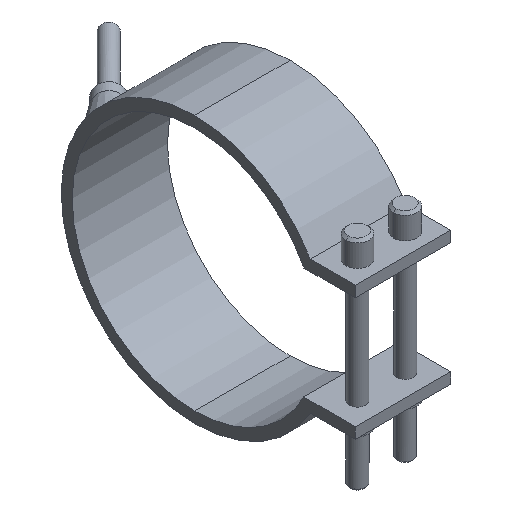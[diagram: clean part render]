
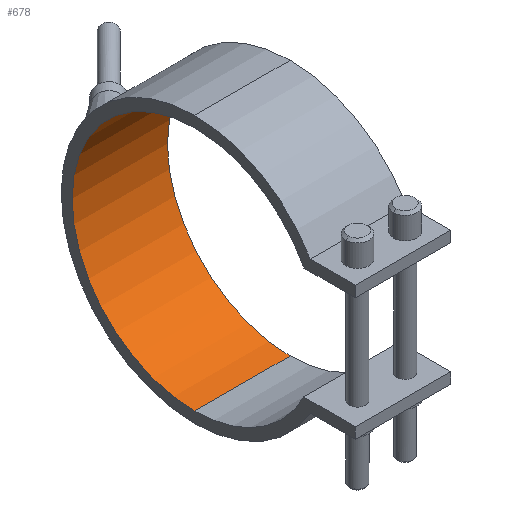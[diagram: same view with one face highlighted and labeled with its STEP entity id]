
A CAD part, isometric view. The second image highlights one B-rep face of the part: STEP entity #678.
In plain terms, the highlighted cylindrical face has radius 45 mm (diameter 90 mm), a partial arc.
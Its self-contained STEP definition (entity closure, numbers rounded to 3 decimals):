
#348=CARTESIAN_POINT('Vertex',(17.5,0.,45.)) ;
#353=CARTESIAN_POINT('Axis2P3D Location',(17.5,0.,0.)) ;
#357=CARTESIAN_POINT('Vertex',(17.5,0.,-45.)) ;
#464=CARTESIAN_POINT('Vertex',(-17.5,0.,-45.)) ;
#467=CARTESIAN_POINT('Axis2P3D Location',(-17.5,0.,0.)) ;
#471=CARTESIAN_POINT('Vertex',(-17.5,0.,45.)) ;
#650=CARTESIAN_POINT('Line Origine',(17.5,0.,45.)) ;
#662=CARTESIAN_POINT('Axis2P3D Location',(17.5,0.,0.)) ;
#667=CARTESIAN_POINT('Line Origine',(17.5,0.,-45.)) ;
#354=DIRECTION('Axis2P3D Direction',(1.,0.,0.)) ;
#468=DIRECTION('Axis2P3D Direction',(1.,0.,0.)) ;
#651=DIRECTION('Vector Direction',(1.,0.,0.)) ;
#663=DIRECTION('Axis2P3D Direction',(1.,0.,-0.)) ;
#664=DIRECTION('Axis2P3D XDirection',(0.,0.,-1.)) ;
#668=DIRECTION('Vector Direction',(1.,0.,0.)) ;
#355=AXIS2_PLACEMENT_3D('Circle Axis2P3D',#353,#354,$) ;
#469=AXIS2_PLACEMENT_3D('Circle Axis2P3D',#467,#468,$) ;
#665=AXIS2_PLACEMENT_3D('Cylinder Axis2P3D',#662,#663,#664) ;
#673=ORIENTED_EDGE('',*,*,#359,.T.) ;
#674=ORIENTED_EDGE('',*,*,#654,.T.) ;
#675=ORIENTED_EDGE('',*,*,#473,.F.) ;
#676=ORIENTED_EDGE('',*,*,#671,.T.) ;
#652=VECTOR('Line Direction',#651,1.) ;
#669=VECTOR('Line Direction',#668,1.) ;
#678=ADVANCED_FACE('29090035',(#677),#666,.F.) ;
#356=CIRCLE('generated circle',#355,45.) ;
#470=CIRCLE('generated circle',#469,45.) ;
#666=CYLINDRICAL_SURFACE('generated cylinder',#665,45.) ;
#359=EDGE_CURVE('',#358,#349,#356,.T.) ;
#473=EDGE_CURVE('',#465,#472,#470,.T.) ;
#654=EDGE_CURVE('',#349,#472,#653,.F.) ;
#671=EDGE_CURVE('',#465,#358,#670,.T.) ;
#672=EDGE_LOOP('',(#673,#674,#675,#676)) ;
#677=FACE_OUTER_BOUND('',#672,.T.) ;
#653=LINE('Line',#650,#652) ;
#670=LINE('Line',#667,#669) ;
#349=VERTEX_POINT('',#348) ;
#358=VERTEX_POINT('',#357) ;
#465=VERTEX_POINT('',#464) ;
#472=VERTEX_POINT('',#471) ;
